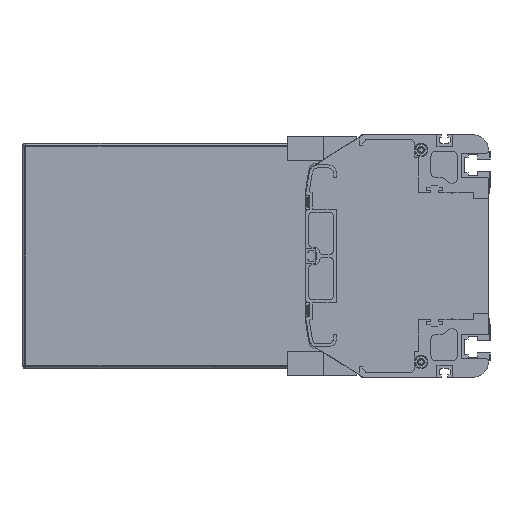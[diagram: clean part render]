
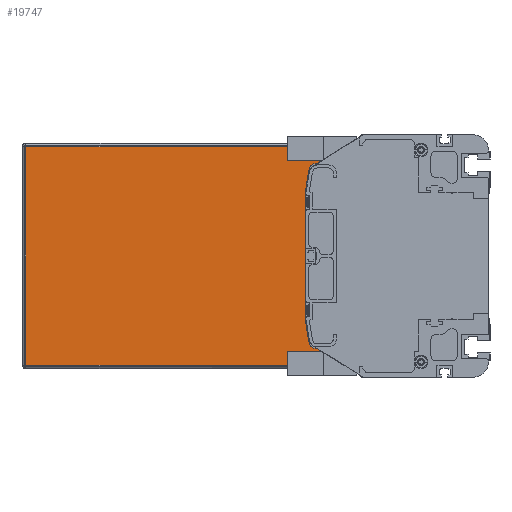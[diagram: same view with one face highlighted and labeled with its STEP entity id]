
A CAD part, left-side view. The second image highlights one B-rep face of the part: STEP entity #19747.
In plain terms, the highlighted planar face has unit normal (-1, 0, 0).
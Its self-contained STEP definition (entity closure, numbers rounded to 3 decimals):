
#693=DIRECTION('',(0.,1.,0.));
#694=VECTOR('',#693,220.5);
#695=CARTESIAN_POINT('',(1586.5,86.,72.));
#696=LINE('',#695,#694);
#744=DIRECTION('',(0.,-1.,0.));
#745=VECTOR('',#744,220.5);
#746=CARTESIAN_POINT('',(1586.5,306.5,-72.));
#747=LINE('',#746,#745);
#803=DIRECTION('',(0.,0.,-1.));
#804=VECTOR('',#803,144.);
#805=CARTESIAN_POINT('',(1586.5,306.5,72.));
#806=LINE('',#805,#804);
#838=CARTESIAN_POINT('',(1586.5,114.728,56.));
#839=DIRECTION('',(-1.,0.,0.));
#840=DIRECTION('',(0.,0.,1.));
#841=AXIS2_PLACEMENT_3D('',#838,#839,#840);
#843=DIRECTION('',(0.,0.156,-0.988));
#844=VECTOR('',#843,14.963);
#845=CARTESIAN_POINT('',(1586.5,119.666,56.78));
#846=LINE('',#845,#844);
#847=DIRECTION('',(0.,-0.156,-0.988));
#848=VECTOR('',#847,14.963);
#849=CARTESIAN_POINT('',(1586.5,122.,-42.));
#850=LINE('',#849,#848);
#851=CARTESIAN_POINT('',(1586.5,114.728,-56.));
#852=DIRECTION('',(-1.,0.,0.));
#853=DIRECTION('',(0.,0.988,-0.156));
#854=AXIS2_PLACEMENT_3D('',#851,#852,#853);
#861=DIRECTION('',(0.,0.,-1.));
#862=VECTOR('',#861,11.);
#863=CARTESIAN_POINT('',(1586.5,86.,-61.));
#864=LINE('',#863,#862);
#870=DIRECTION('',(0.,0.,-1.));
#871=VECTOR('',#870,11.);
#872=CARTESIAN_POINT('',(1586.5,86.,72.));
#873=LINE('',#872,#871);
#9952=DIRECTION('',(0.,1.,0.));
#9953=VECTOR('',#9952,28.728);
#9954=CARTESIAN_POINT('',(1586.5,86.,-61.));
#9955=LINE('',#9954,#9953);
#9972=DIRECTION('',(0.,0.,1.));
#9973=VECTOR('',#9972,84.);
#9974=CARTESIAN_POINT('',(1586.5,122.,-42.));
#9975=LINE('',#9974,#9973);
#9996=DIRECTION('',(0.,-1.,0.));
#9997=VECTOR('',#9996,28.728);
#9998=CARTESIAN_POINT('',(1586.5,114.728,61.));
#9999=LINE('',#9998,#9997);
#15018=CARTESIAN_POINT('',(1586.5,306.5,-72.));
#15019=CARTESIAN_POINT('',(1586.5,86.,-72.));
#15020=VERTEX_POINT('',#15018);
#15021=VERTEX_POINT('',#15019);
#15022=CARTESIAN_POINT('',(1586.5,86.,-61.));
#15023=VERTEX_POINT('',#15022);
#15024=CARTESIAN_POINT('',(1586.5,114.728,-61.));
#15025=VERTEX_POINT('',#15024);
#15026=CARTESIAN_POINT('',(1586.5,119.666,-56.78));
#15027=VERTEX_POINT('',#15026);
#15028=CARTESIAN_POINT('',(1586.5,122.,-42.));
#15029=VERTEX_POINT('',#15028);
#15030=CARTESIAN_POINT('',(1586.5,122.,42.));
#15031=VERTEX_POINT('',#15030);
#15032=CARTESIAN_POINT('',(1586.5,119.666,56.78));
#15033=VERTEX_POINT('',#15032);
#15034=CARTESIAN_POINT('',(1586.5,114.728,61.));
#15035=VERTEX_POINT('',#15034);
#15036=CARTESIAN_POINT('',(1586.5,86.,61.));
#15037=VERTEX_POINT('',#15036);
#15038=CARTESIAN_POINT('',(1586.5,86.,72.));
#15039=VERTEX_POINT('',#15038);
#15040=CARTESIAN_POINT('',(1586.5,306.5,72.));
#15041=VERTEX_POINT('',#15040);
#19719=CARTESIAN_POINT('',(1586.5,196.25,0.));
#19720=DIRECTION('',(1.,0.,0.));
#19721=DIRECTION('',(0.,0.,-1.));
#19722=AXIS2_PLACEMENT_3D('',#19719,#19720,#19721);
#19723=PLANE('',#19722);
#19724=ORIENTED_EDGE('',*,*,#19592,.F.);
#19725=ORIENTED_EDGE('',*,*,#19688,.F.);
#19726=ORIENTED_EDGE('',*,*,#19545,.F.);
#19728=ORIENTED_EDGE('',*,*,#19727,.T.);
#19730=ORIENTED_EDGE('',*,*,#19729,.F.);
#19732=ORIENTED_EDGE('',*,*,#19731,.T.);
#19734=ORIENTED_EDGE('',*,*,#19733,.T.);
#19736=ORIENTED_EDGE('',*,*,#19735,.F.);
#19738=ORIENTED_EDGE('',*,*,#19737,.T.);
#19740=ORIENTED_EDGE('',*,*,#19739,.T.);
#19742=ORIENTED_EDGE('',*,*,#19741,.F.);
#19744=ORIENTED_EDGE('',*,*,#19743,.T.);
#19745=EDGE_LOOP('',(#19724,#19725,#19726,#19728,#19730,#19732,#19734,#19736,
#19738,#19740,#19742,#19744));
#19746=FACE_OUTER_BOUND('',#19745,.F.);
#19747=ADVANCED_FACE('',(#19746),#19723,.F.);
#842=CIRCLE('',#841,5.);
#855=CIRCLE('',#854,5.);
#19545=EDGE_CURVE('',#15039,#15041,#696,.T.);
#19592=EDGE_CURVE('',#15020,#15021,#747,.T.);
#19688=EDGE_CURVE('',#15041,#15020,#806,.T.);
#19727=EDGE_CURVE('',#15039,#15037,#873,.T.);
#19729=EDGE_CURVE('',#15035,#15037,#9999,.T.);
#19731=EDGE_CURVE('',#15035,#15033,#842,.T.);
#19733=EDGE_CURVE('',#15033,#15031,#846,.T.);
#19735=EDGE_CURVE('',#15029,#15031,#9975,.T.);
#19737=EDGE_CURVE('',#15029,#15027,#850,.T.);
#19739=EDGE_CURVE('',#15027,#15025,#855,.T.);
#19741=EDGE_CURVE('',#15023,#15025,#9955,.T.);
#19743=EDGE_CURVE('',#15023,#15021,#864,.T.);
